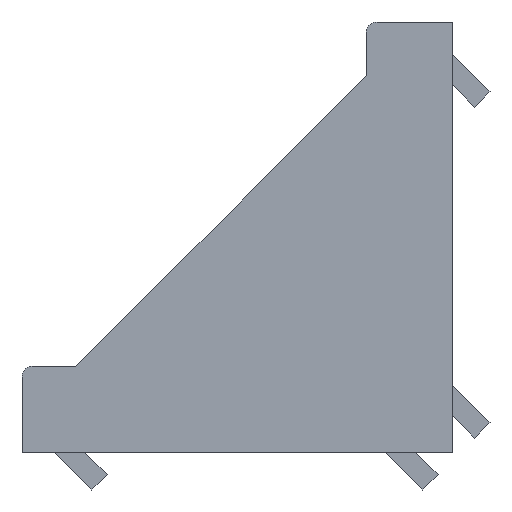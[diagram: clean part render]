
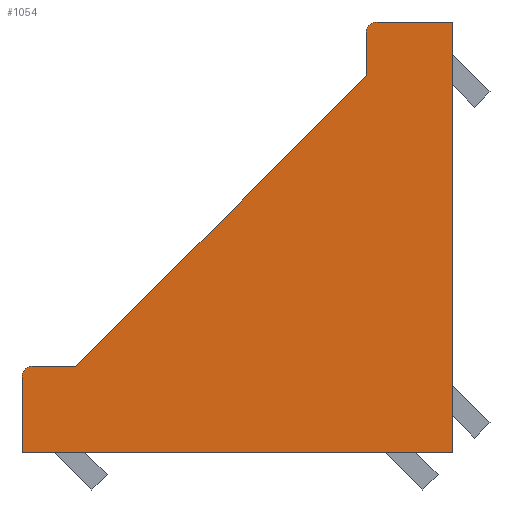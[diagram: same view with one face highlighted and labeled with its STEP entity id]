
A CAD part, left-side view. The second image highlights one B-rep face of the part: STEP entity #1054.
In plain terms, the highlighted planar face has unit normal (-1, 0, 0).
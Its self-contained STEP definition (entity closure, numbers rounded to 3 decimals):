
#22 = DIRECTION ( 'NONE',  ( 1., 0., 0. ) ) ;
#45 = ORIENTED_EDGE ( 'NONE', *, *, #1471, .T. ) ;
#46 = LINE ( 'NONE', #1081, #977 ) ;
#60 = AXIS2_PLACEMENT_3D ( 'NONE', #1236, #484, #1357 ) ;
#70 = LINE ( 'NONE', #1095, #451 ) ;
#82 = LINE ( 'NONE', #1209, #1346 ) ;
#149 = EDGE_CURVE ( 'NONE', #1406, #1375, #1523, .T. ) ;
#152 = CARTESIAN_POINT ( 'NONE',  ( -19.25, 20., -13. ) ) ;
#174 = VERTEX_POINT ( 'NONE', #1149 ) ;
#198 = LINE ( 'NONE', #587, #1201 ) ;
#203 = DIRECTION ( 'NONE',  ( 0., 0., 1. ) ) ;
#223 = EDGE_LOOP ( 'NONE', ( #1407, #1005, #1549, #1288, #786, #45, #1382, #1491, #516 ) ) ;
#248 = VERTEX_POINT ( 'NONE', #305 ) ;
#290 = CARTESIAN_POINT ( 'NONE',  ( -19.25, -12., 15. ) ) ;
#305 = CARTESIAN_POINT ( 'NONE',  ( -19.25, -12., 19. ) ) ;
#357 = DIRECTION ( 'NONE',  ( 0., -1., 0. ) ) ;
#412 = CARTESIAN_POINT ( 'NONE',  ( -19.25, -20., -20. ) ) ;
#451 = VECTOR ( 'NONE', #357, 1000. ) ;
#455 = CARTESIAN_POINT ( 'NONE',  ( -19.25, -20., 20. ) ) ;
#484 = DIRECTION ( 'NONE',  ( -1., 0., 0. ) ) ;
#489 = CIRCLE ( 'NONE', #60, 1. ) ;
#516 = ORIENTED_EDGE ( 'NONE', *, *, #149, .F. ) ;
#517 = CARTESIAN_POINT ( 'NONE',  ( -19.25, -13., 19. ) ) ;
#583 = VERTEX_POINT ( 'NONE', #915 ) ;
#587 = CARTESIAN_POINT ( 'NONE',  ( -19.25, 20., -12. ) ) ;
#620 = EDGE_CURVE ( 'NONE', #639, #248, #652, .T. ) ;
#639 = VERTEX_POINT ( 'NONE', #889 ) ;
#649 = DIRECTION ( 'NONE',  ( 0., 0., -1. ) ) ;
#652 = CIRCLE ( 'NONE', #675, 1. ) ;
#663 = CARTESIAN_POINT ( 'NONE',  ( -19.25, 0., 0. ) ) ;
#675 = AXIS2_PLACEMENT_3D ( 'NONE', #517, #1388, #649 ) ;
#697 = EDGE_CURVE ( 'NONE', #1375, #1067, #1198, .T. ) ;
#742 = EDGE_CURVE ( 'NONE', #639, #1406, #70, .T. ) ;
#781 = PLANE ( 'NONE',  #1545 ) ;
#786 = ORIENTED_EDGE ( 'NONE', *, *, #1392, .T. ) ;
#820 = CARTESIAN_POINT ( 'NONE',  ( -19.25, 20., -20. ) ) ;
#833 = LINE ( 'NONE', #290, #1488 ) ;
#853 = VECTOR ( 'NONE', #1520, 1000. ) ;
#889 = CARTESIAN_POINT ( 'NONE',  ( -19.25, -13., 20. ) ) ;
#910 = DIRECTION ( 'NONE',  ( 0., 0., -1. ) ) ;
#915 = CARTESIAN_POINT ( 'NONE',  ( -19.25, -12., 15. ) ) ;
#950 = CARTESIAN_POINT ( 'NONE',  ( -19.25, -20., -20. ) ) ;
#977 = VECTOR ( 'NONE', #1566, 1000. ) ;
#1000 = DIRECTION ( 'NONE',  ( 0., 0., -1. ) ) ;
#1005 = ORIENTED_EDGE ( 'NONE', *, *, #620, .T. ) ;
#1029 = EDGE_CURVE ( 'NONE', #248, #583, #833, .T. ) ;
#1031 = VERTEX_POINT ( 'NONE', #152 ) ;
#1054 = ADVANCED_FACE ( 'NONE', ( #1128 ), #781, .F. ) ;
#1067 = VERTEX_POINT ( 'NONE', #820 ) ;
#1081 = CARTESIAN_POINT ( 'NONE',  ( -19.25, 15., -12. ) ) ;
#1095 = CARTESIAN_POINT ( 'NONE',  ( -19.25, -20., 20. ) ) ;
#1116 = CARTESIAN_POINT ( 'NONE',  ( -19.25, -20., -20. ) ) ;
#1128 = FACE_OUTER_BOUND ( 'NONE', #223, .T. ) ;
#1133 = EDGE_CURVE ( 'NONE', #1067, #1031, #82, .T. ) ;
#1149 = CARTESIAN_POINT ( 'NONE',  ( -19.25, 15., -12. ) ) ;
#1150 = EDGE_CURVE ( 'NONE', #583, #174, #46, .T. ) ;
#1161 = DIRECTION ( 'NONE',  ( 0., 0., -1. ) ) ;
#1198 = LINE ( 'NONE', #412, #853 ) ;
#1201 = VECTOR ( 'NONE', #1446, 1000. ) ;
#1209 = CARTESIAN_POINT ( 'NONE',  ( -19.25, 20., -20. ) ) ;
#1236 = CARTESIAN_POINT ( 'NONE',  ( -19.25, 19., -13. ) ) ;
#1288 = ORIENTED_EDGE ( 'NONE', *, *, #1150, .T. ) ;
#1325 = VERTEX_POINT ( 'NONE', #1329 ) ;
#1329 = CARTESIAN_POINT ( 'NONE',  ( -19.25, 19., -12. ) ) ;
#1346 = VECTOR ( 'NONE', #203, 1000. ) ;
#1357 = DIRECTION ( 'NONE',  ( 0., 0., -1. ) ) ;
#1375 = VERTEX_POINT ( 'NONE', #950 ) ;
#1382 = ORIENTED_EDGE ( 'NONE', *, *, #1133, .F. ) ;
#1388 = DIRECTION ( 'NONE',  ( -1., 0., 0. ) ) ;
#1392 = EDGE_CURVE ( 'NONE', #174, #1325, #198, .T. ) ;
#1406 = VERTEX_POINT ( 'NONE', #455 ) ;
#1407 = ORIENTED_EDGE ( 'NONE', *, *, #742, .F. ) ;
#1446 = DIRECTION ( 'NONE',  ( 0., 1., 0. ) ) ;
#1471 = EDGE_CURVE ( 'NONE', #1325, #1031, #489, .T. ) ;
#1488 = VECTOR ( 'NONE', #1161, 1000. ) ;
#1491 = ORIENTED_EDGE ( 'NONE', *, *, #697, .F. ) ;
#1520 = DIRECTION ( 'NONE',  ( 0., 1., 0. ) ) ;
#1523 = LINE ( 'NONE', #1116, #1620 ) ;
#1545 = AXIS2_PLACEMENT_3D ( 'NONE', #663, #22, #910 ) ;
#1549 = ORIENTED_EDGE ( 'NONE', *, *, #1029, .T. ) ;
#1566 = DIRECTION ( 'NONE',  ( 0., 0.707, -0.707 ) ) ;
#1620 = VECTOR ( 'NONE', #1000, 1000. ) ;
